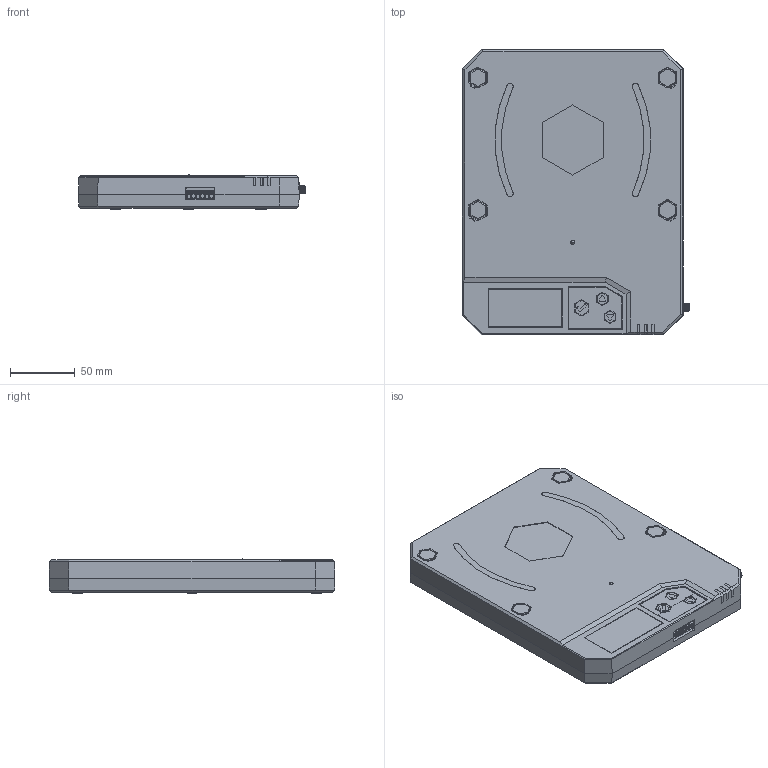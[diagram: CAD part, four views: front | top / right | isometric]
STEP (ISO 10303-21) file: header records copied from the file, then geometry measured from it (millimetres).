
FILE_DESCRIPTION(('FreeCAD Model'),'2;1');
FILE_NAME('X:/Progettazione/PROJECTS/R1290I/MECCANICA/Disegni meccanica per clienti/Assieme_R1290I_per clienti2.step','2021-02-25T17:26:06',( 'Author'),(''),'Open CASCADE STEP processor 7.3','FreeCAD','Unknown' );
FILE_SCHEMA(('AUTOMOTIVE_DESIGN { 1 0 10303 214 1 1 1 1 }'));
Products named in the file (5): R1290I; Plastic_cap_1; Plastic_cap_2; Plastic_cap_3; Plastic_cap_4
Bounding box: 175.02 x 220.03 x 26.33 mm (x, y, z)
Volume: 273644.5 mm3; surface area: 216122.8 mm2
Topology: 11 solids, 11 shells, 4503 faces, 36104 edges, 101989 vertices
Faces by surface type: plane 3112, cylinder 996, bspline 149, torus 106, cone 104, sphere 32, revolution 4
Full cylindrical faces by diameter (mm): 1.2 x6, 2.8 x7, 3 x7, 3.1 x1, 5.2 x8, 5.8 x5, 7.1 x1, 8 x3, 9 x1, 9.5 x4, 11 x5
Entity records: 626194 total; most frequent: CARTESIAN_POINT 228786, DIRECTION 72532, LINE 47788, VECTOR 47788, ORIENTED_EDGE 25068, PCURVE 25068, DEFINITIONAL_REPRESENTATION 25068, GEOMETRIC_CURVE_SET 23552
